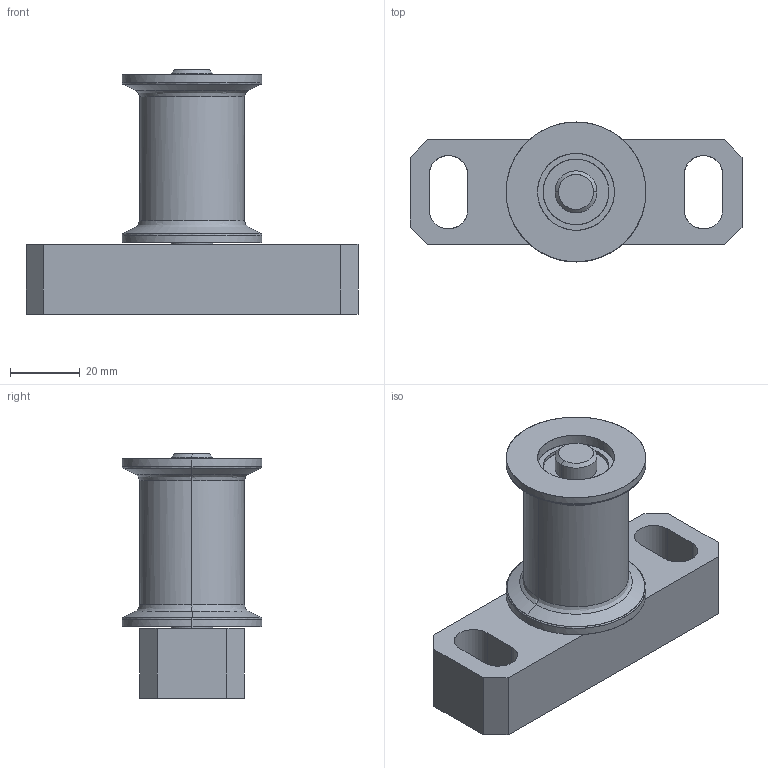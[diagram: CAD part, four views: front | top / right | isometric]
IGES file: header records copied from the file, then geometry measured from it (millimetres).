
Global section: file name: E:\UnigraphicsGraphicData\MISUMI_PRESS-PARTS\IGES\3d_gdrtb30-38_03789_r00.igs; native system: NX V5.0; preprocessor: UGS NX IGES V5.0; author: MISUMI; date: 20110105.160707; units: millimetre
Bounding box: 95 x 40 x 70 mm (x, y, z)
Surface area: 28538.9 mm2 (no closed solid volume)
Topology: 0 solids, 0 shells, 107 faces, 768 edges, 768 vertices
Faces by surface type: bspline 107
